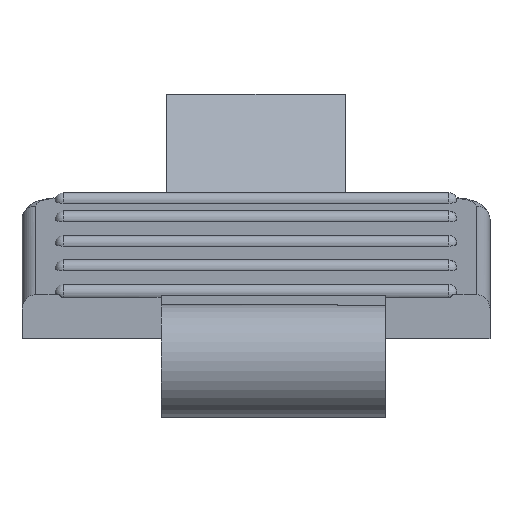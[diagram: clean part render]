
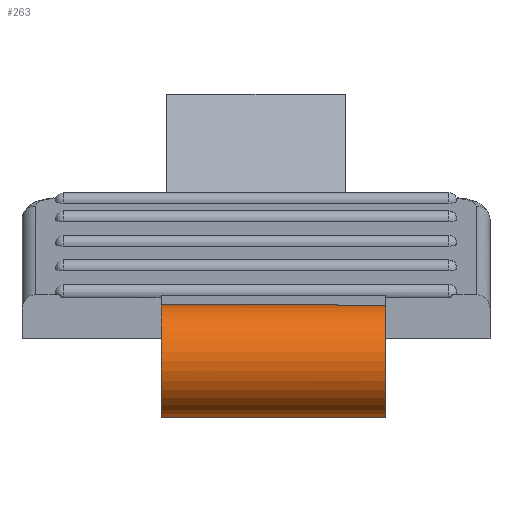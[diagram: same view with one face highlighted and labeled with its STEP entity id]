
A CAD part, front view. The second image highlights one B-rep face of the part: STEP entity #263.
In plain terms, the highlighted cylindrical face has radius 4.1 mm (diameter 8.2 mm), a partial arc.
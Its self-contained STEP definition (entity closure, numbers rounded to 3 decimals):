
#24 = VERTEX_POINT('',#25);
#25 = CARTESIAN_POINT('',(-199.15,-113.,-0.65));
#32 = EDGE_CURVE('',#24,#33,#35,.T.);
#33 = VERTEX_POINT('',#34);
#34 = CARTESIAN_POINT('',(-186.35,-113.,-0.65));
#35 = LINE('',#36,#37);
#36 = CARTESIAN_POINT('',(-199.15,-113.,-0.65));
#37 = VECTOR('',#38,1.);
#38 = DIRECTION('',(1.,0.,0.));
#89 = EDGE_CURVE('',#24,#90,#92,.T.);
#90 = VERTEX_POINT('',#91);
#91 = CARTESIAN_POINT('',(-199.15,-109.16,-3.314));
#92 = CIRCLE('',#93,4.1);
#93 = AXIS2_PLACEMENT_3D('',#94,#95,#96);
#94 = CARTESIAN_POINT('',(-199.15,-113.,-4.75));
#95 = DIRECTION('',(1.,0.,0.));
#96 = DIRECTION('',(-0.,0.,1.));
#227 = VERTEX_POINT('',#228);
#228 = CARTESIAN_POINT('',(-186.35,-113.7,-0.71));
#252 = EDGE_CURVE('',#33,#227,#253,.T.);
#253 = CIRCLE('',#254,4.1);
#254 = AXIS2_PLACEMENT_3D('',#255,#256,#257);
#255 = CARTESIAN_POINT('',(-186.35,-113.,-4.75));
#256 = DIRECTION('',(1.,0.,0.));
#257 = DIRECTION('',(-0.,0.,1.));
#263 = ADVANCED_FACE('',(#264),#292,.T.);
#264 = FACE_BOUND('',#265,.T.);
#265 = EDGE_LOOP('',(#266,#277,#283,#284,#285,#286));
#266 = ORIENTED_EDGE('',*,*,#267,.F.);
#267 = EDGE_CURVE('',#268,#270,#272,.T.);
#268 = VERTEX_POINT('',#269);
#269 = CARTESIAN_POINT('',(-182.85,-113.7,-0.71));
#270 = VERTEX_POINT('',#271);
#271 = CARTESIAN_POINT('',(-182.85,-109.16,-3.314));
#272 = CIRCLE('',#273,4.1);
#273 = AXIS2_PLACEMENT_3D('',#274,#275,#276);
#274 = CARTESIAN_POINT('',(-182.85,-113.,-4.75));
#275 = DIRECTION('',(1.,0.,0.));
#276 = DIRECTION('',(-0.,0.,1.));
#277 = ORIENTED_EDGE('',*,*,#278,.F.);
#278 = EDGE_CURVE('',#227,#268,#279,.T.);
#279 = LINE('',#280,#281);
#280 = CARTESIAN_POINT('',(-199.15,-113.7,-0.71));
#281 = VECTOR('',#282,1.);
#282 = DIRECTION('',(1.,0.,0.));
#283 = ORIENTED_EDGE('',*,*,#252,.F.);
#284 = ORIENTED_EDGE('',*,*,#32,.F.);
#285 = ORIENTED_EDGE('',*,*,#89,.T.);
#286 = ORIENTED_EDGE('',*,*,#287,.T.);
#287 = EDGE_CURVE('',#90,#270,#288,.T.);
#288 = LINE('',#289,#290);
#289 = CARTESIAN_POINT('',(-199.15,-109.16,-3.314));
#290 = VECTOR('',#291,1.);
#291 = DIRECTION('',(1.,0.,0.));
#292 = CYLINDRICAL_SURFACE('',#293,4.1);
#293 = AXIS2_PLACEMENT_3D('',#294,#295,#296);
#294 = CARTESIAN_POINT('',(-199.15,-113.,-4.75));
#295 = DIRECTION('',(1.,0.,0.));
#296 = DIRECTION('',(-0.,0.,1.));
